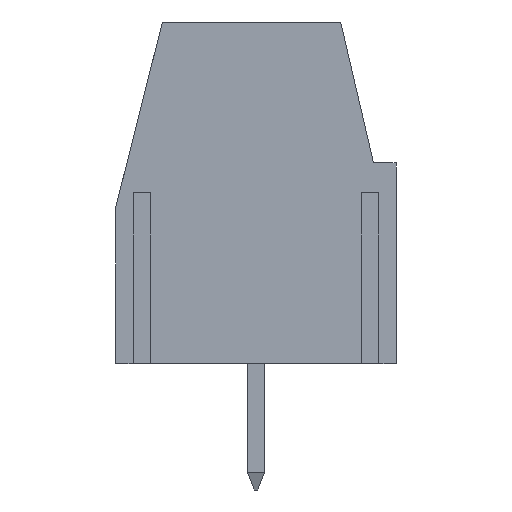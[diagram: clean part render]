
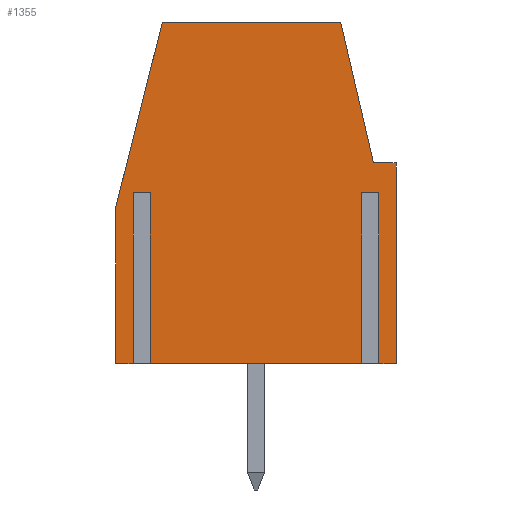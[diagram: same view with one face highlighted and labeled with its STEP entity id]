
A CAD part, left-side view. The second image highlights one B-rep face of the part: STEP entity #1355.
In plain terms, the highlighted planar face has unit normal (-1, 0, 0).
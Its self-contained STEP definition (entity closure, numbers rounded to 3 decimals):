
#110 = VERTEX_POINT ( 'NONE', #11299 ) ;
#699 = CARTESIAN_POINT ( 'NONE',  ( -5.04, -4.1, 5.873 ) ) ;
#708 = CARTESIAN_POINT ( 'NONE',  ( -5.04, -4.1, 5.873 ) ) ;
#797 = VERTEX_POINT ( 'NONE', #8231 ) ;
#931 = DIRECTION ( 'NONE',  ( 0., 1., 0. ) ) ;
#947 = ORIENTED_EDGE ( 'NONE', *, *, #12940, .F. ) ;
#1032 = CARTESIAN_POINT ( 'NONE',  ( -5.04, 0., 0. ) ) ;
#1221 = VERTEX_POINT ( 'NONE', #8445 ) ;
#1330 = VECTOR ( 'NONE', #6559, 1000. ) ;
#1355 = ADVANCED_FACE ( 'NONE', ( #13134 ), #7124, .T. ) ;
#1362 = EDGE_CURVE ( 'NONE', #8514, #1550, #4389, .T. ) ;
#1439 = EDGE_CURVE ( 'NONE', #1221, #10787, #13278, .T. ) ;
#1510 = EDGE_CURVE ( 'NONE', #797, #10239, #1667, .T. ) ;
#1550 = VERTEX_POINT ( 'NONE', #13574 ) ;
#1667 = LINE ( 'NONE', #8939, #1330 ) ;
#1718 = VECTOR ( 'NONE', #8178, 1000. ) ;
#1891 = CARTESIAN_POINT ( 'NONE',  ( -5.04, 0., 5. ) ) ;
#1983 = EDGE_CURVE ( 'NONE', #15034, #5619, #3202, .T. ) ;
#2085 = ORIENTED_EDGE ( 'NONE', *, *, #8997, .F. ) ;
#2098 = EDGE_CURVE ( 'NONE', #4407, #2600, #11838, .T. ) ;
#2310 = CARTESIAN_POINT ( 'NONE',  ( -5.04, 3.1, 0. ) ) ;
#2600 = VERTEX_POINT ( 'NONE', #11947 ) ;
#2694 = CARTESIAN_POINT ( 'NONE',  ( -5.04, -4.1, 0. ) ) ;
#2760 = CARTESIAN_POINT ( 'NONE',  ( -5.04, -2.481, 10. ) ) ;
#2782 = LINE ( 'NONE', #6571, #3259 ) ;
#3202 = LINE ( 'NONE', #9148, #12363 ) ;
#3242 = CARTESIAN_POINT ( 'NONE',  ( -5.04, -3.1, 5. ) ) ;
#3259 = VECTOR ( 'NONE', #5194, 1000. ) ;
#3387 = LINE ( 'NONE', #15762, #10957 ) ;
#3570 = EDGE_LOOP ( 'NONE', ( #12356, #12406, #7478, #6862, #4699, #11130, #947, #4547, #4603, #15193, #15016, #13850, #2085, #9627, #9490 ) ) ;
#4174 = DIRECTION ( 'NONE',  ( 0., -0.226, -0.974 ) ) ;
#4200 = CARTESIAN_POINT ( 'NONE',  ( -5.04, 0., 0. ) ) ;
#4254 = LINE ( 'NONE', #5306, #6453 ) ;
#4320 = DIRECTION ( 'NONE',  ( 0., 1., 0. ) ) ;
#4389 = LINE ( 'NONE', #1032, #13067 ) ;
#4407 = VERTEX_POINT ( 'NONE', #8843 ) ;
#4547 = ORIENTED_EDGE ( 'NONE', *, *, #8975, .F. ) ;
#4603 = ORIENTED_EDGE ( 'NONE', *, *, #14683, .F. ) ;
#4699 = ORIENTED_EDGE ( 'NONE', *, *, #14162, .F. ) ;
#4890 = EDGE_CURVE ( 'NONE', #13727, #110, #15419, .T. ) ;
#5194 = DIRECTION ( 'NONE',  ( 0., 0., -1. ) ) ;
#5306 = CARTESIAN_POINT ( 'NONE',  ( -5.04, 3.6, 0. ) ) ;
#5582 = DIRECTION ( 'NONE',  ( 0., 0., 1. ) ) ;
#5599 = LINE ( 'NONE', #9363, #15573 ) ;
#5618 = VECTOR ( 'NONE', #12038, 1000. ) ;
#5619 = VERTEX_POINT ( 'NONE', #15386 ) ;
#5840 = DIRECTION ( 'NONE',  ( 0., 0., 1. ) ) ;
#6453 = VECTOR ( 'NONE', #8992, 1000. ) ;
#6559 = DIRECTION ( 'NONE',  ( 0., -0.244, 0.97 ) ) ;
#6571 = CARTESIAN_POINT ( 'NONE',  ( -5.04, -4.1, 0. ) ) ;
#6711 = VERTEX_POINT ( 'NONE', #13971 ) ;
#6862 = ORIENTED_EDGE ( 'NONE', *, *, #4890, .F. ) ;
#7124 = PLANE ( 'NONE',  #12824 ) ;
#7205 = DIRECTION ( 'NONE',  ( 0., 0., 1. ) ) ;
#7478 = ORIENTED_EDGE ( 'NONE', *, *, #8684, .F. ) ;
#7533 = DIRECTION ( 'NONE',  ( 0., 0., 1. ) ) ;
#7791 = VECTOR ( 'NONE', #5840, 1000. ) ;
#8014 = DIRECTION ( 'NONE',  ( -1., 0., 0. ) ) ;
#8178 = DIRECTION ( 'NONE',  ( 0., 0., -1. ) ) ;
#8231 = CARTESIAN_POINT ( 'NONE',  ( -5.04, 4.1, 4.594 ) ) ;
#8445 = CARTESIAN_POINT ( 'NONE',  ( -5.04, 3.1, 0. ) ) ;
#8514 = VERTEX_POINT ( 'NONE', #12845 ) ;
#8684 = EDGE_CURVE ( 'NONE', #110, #1221, #5599, .T. ) ;
#8843 = CARTESIAN_POINT ( 'NONE',  ( -5.04, -3.6, 0. ) ) ;
#8939 = CARTESIAN_POINT ( 'NONE',  ( -5.04, 4.1, 4.594 ) ) ;
#8975 = EDGE_CURVE ( 'NONE', #10599, #14934, #2782, .T. ) ;
#8992 = DIRECTION ( 'NONE',  ( 0., 0., -1. ) ) ;
#8994 = VECTOR ( 'NONE', #7205, 1000. ) ;
#8997 = EDGE_CURVE ( 'NONE', #1550, #797, #9997, .T. ) ;
#9148 = CARTESIAN_POINT ( 'NONE',  ( -5.04, -3.438, 5.873 ) ) ;
#9169 = VECTOR ( 'NONE', #7533, 1000. ) ;
#9192 = LINE ( 'NONE', #708, #11728 ) ;
#9363 = CARTESIAN_POINT ( 'NONE',  ( -5.04, 0., 0. ) ) ;
#9378 = DIRECTION ( 'NONE',  ( 0., 1., 0. ) ) ;
#9490 = ORIENTED_EDGE ( 'NONE', *, *, #11159, .F. ) ;
#9536 = LINE ( 'NONE', #4200, #10053 ) ;
#9627 = ORIENTED_EDGE ( 'NONE', *, *, #1362, .F. ) ;
#9680 = CARTESIAN_POINT ( 'NONE',  ( -5.04, -3.6, 0. ) ) ;
#9997 = LINE ( 'NONE', #14695, #9169 ) ;
#10053 = VECTOR ( 'NONE', #9378, 1000. ) ;
#10239 = VERTEX_POINT ( 'NONE', #10987 ) ;
#10443 = LINE ( 'NONE', #1891, #12005 ) ;
#10599 = VERTEX_POINT ( 'NONE', #699 ) ;
#10787 = VERTEX_POINT ( 'NONE', #12287 ) ;
#10957 = VECTOR ( 'NONE', #15692, 1000. ) ;
#10987 = CARTESIAN_POINT ( 'NONE',  ( -5.04, 2.742, 10. ) ) ;
#11130 = ORIENTED_EDGE ( 'NONE', *, *, #2098, .F. ) ;
#11159 = EDGE_CURVE ( 'NONE', #6711, #8514, #4254, .T. ) ;
#11299 = CARTESIAN_POINT ( 'NONE',  ( -5.04, -3.1, 0. ) ) ;
#11728 = VECTOR ( 'NONE', #11806, 1000. ) ;
#11806 = DIRECTION ( 'NONE',  ( 0., -1., 0. ) ) ;
#11838 = LINE ( 'NONE', #9680, #7791 ) ;
#11897 = CARTESIAN_POINT ( 'NONE',  ( -5.04, 0., 0. ) ) ;
#11947 = CARTESIAN_POINT ( 'NONE',  ( -5.04, -3.6, 5. ) ) ;
#12005 = VECTOR ( 'NONE', #931, 1000. ) ;
#12038 = DIRECTION ( 'NONE',  ( 0., -1., 0. ) ) ;
#12121 = CARTESIAN_POINT ( 'NONE',  ( -5.04, 2.742, 10. ) ) ;
#12287 = CARTESIAN_POINT ( 'NONE',  ( -5.04, 3.1, 5. ) ) ;
#12356 = ORIENTED_EDGE ( 'NONE', *, *, #15068, .F. ) ;
#12363 = VECTOR ( 'NONE', #4174, 1000. ) ;
#12406 = ORIENTED_EDGE ( 'NONE', *, *, #1439, .F. ) ;
#12824 = AXIS2_PLACEMENT_3D ( 'NONE', #11897, #8014, #5582 ) ;
#12845 = CARTESIAN_POINT ( 'NONE',  ( -5.04, 3.6, 0. ) ) ;
#12902 = CARTESIAN_POINT ( 'NONE',  ( -5.04, -3.1, 0. ) ) ;
#12940 = EDGE_CURVE ( 'NONE', #14934, #4407, #9536, .T. ) ;
#12951 = DIRECTION ( 'NONE',  ( 0., 1., 0. ) ) ;
#13067 = VECTOR ( 'NONE', #12951, 1000. ) ;
#13134 = FACE_OUTER_BOUND ( 'NONE', #3570, .T. ) ;
#13255 = LINE ( 'NONE', #12121, #5618 ) ;
#13278 = LINE ( 'NONE', #2310, #8994 ) ;
#13574 = CARTESIAN_POINT ( 'NONE',  ( -5.04, 4.1, 0. ) ) ;
#13727 = VERTEX_POINT ( 'NONE', #3242 ) ;
#13850 = ORIENTED_EDGE ( 'NONE', *, *, #1510, .F. ) ;
#13971 = CARTESIAN_POINT ( 'NONE',  ( -5.04, 3.6, 5. ) ) ;
#14162 = EDGE_CURVE ( 'NONE', #2600, #13727, #3387, .T. ) ;
#14683 = EDGE_CURVE ( 'NONE', #5619, #10599, #9192, .T. ) ;
#14695 = CARTESIAN_POINT ( 'NONE',  ( -5.04, 4.1, 0. ) ) ;
#14934 = VERTEX_POINT ( 'NONE', #2694 ) ;
#15016 = ORIENTED_EDGE ( 'NONE', *, *, #15190, .F. ) ;
#15034 = VERTEX_POINT ( 'NONE', #2760 ) ;
#15068 = EDGE_CURVE ( 'NONE', #10787, #6711, #10443, .T. ) ;
#15190 = EDGE_CURVE ( 'NONE', #10239, #15034, #13255, .T. ) ;
#15193 = ORIENTED_EDGE ( 'NONE', *, *, #1983, .F. ) ;
#15386 = CARTESIAN_POINT ( 'NONE',  ( -5.04, -3.438, 5.873 ) ) ;
#15419 = LINE ( 'NONE', #12902, #1718 ) ;
#15573 = VECTOR ( 'NONE', #4320, 1000. ) ;
#15692 = DIRECTION ( 'NONE',  ( 0., 1., 0. ) ) ;
#15762 = CARTESIAN_POINT ( 'NONE',  ( -5.04, 0., 5. ) ) ;
